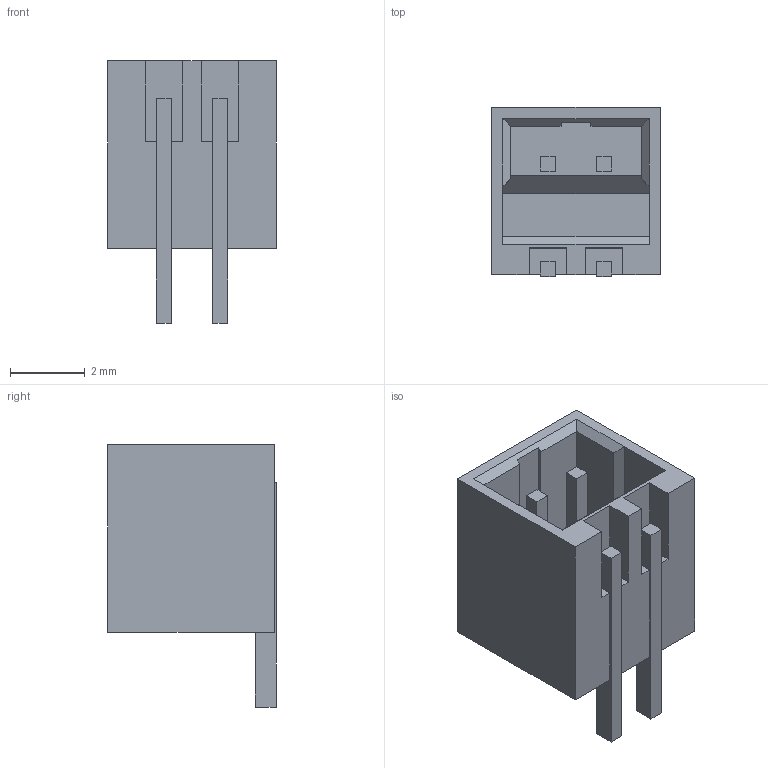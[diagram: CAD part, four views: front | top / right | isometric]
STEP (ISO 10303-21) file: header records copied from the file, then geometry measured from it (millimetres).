
FILE_DESCRIPTION((''),'2;1');
FILE_NAME('C-5-1775444-2','2019-01-15T00:09:57',('workeradm'),('TE Connectivity Ltd.'),'CREO PARAMETRIC BY PTC INC, 2018190','CREO PARAMETRIC BY PTC INC, 2018190','');
FILE_SCHEMA(('AUTOMOTIVE_DESIGN { 1 0 10303 214 1 1 1 1 }'));
Length unit declared in the file: millimetre
Products named in the file (1): C-5-1775444-2
Bounding box: 4.5 x 4.5 x 7 mm (x, y, z)
Volume: 60.7 mm3; surface area: 203.6 mm2
Topology: 1 solids, 1 shells, 59 faces, 158 edges, 104 vertices
Faces by surface type: plane 59
Entity records: 1844 total; most frequent: CARTESIAN_POINT 323, ORIENTED_EDGE 316, DIRECTION 276, VECTOR 158, LINE 158, EDGE_CURVE 158, VERTEX_POINT 104, EDGE_LOOP 62
